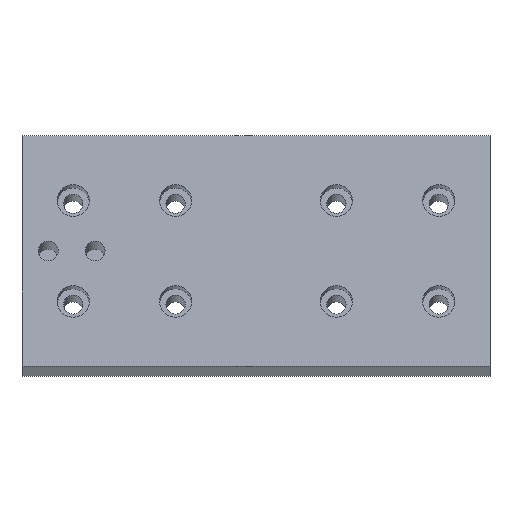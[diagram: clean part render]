
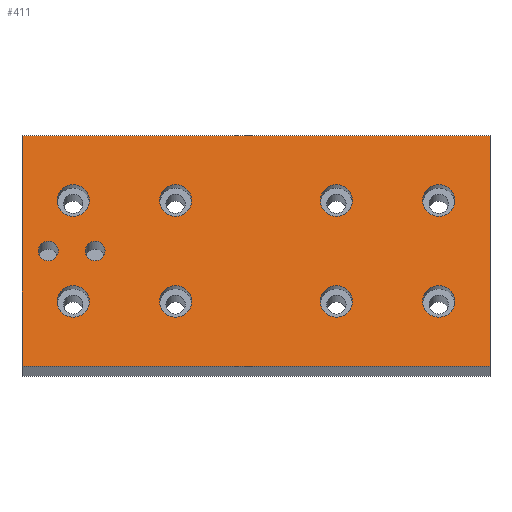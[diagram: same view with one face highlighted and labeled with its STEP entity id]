
A CAD part, front view. The second image highlights one B-rep face of the part: STEP entity #411.
In plain terms, the highlighted planar face has unit normal (0, -0.985, 0.174).
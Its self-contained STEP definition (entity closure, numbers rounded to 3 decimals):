
#37=CARTESIAN_POINT('',(-278.5,184.155,1572.201));
#38=VERTEX_POINT('',#37);
#45=CARTESIAN_POINT('',(-438.5,184.155,1572.201));
#46=VERTEX_POINT('',#45);
#47=CARTESIAN_POINT('',(-438.5,184.155,1572.201));
#48=DIRECTION('',(1.0,0.0,0.0));
#49=VECTOR('',#48,1.);
#50=LINE('',#47,#49);
#51=EDGE_CURVE('',#46,#38,#50,.T.);
#75=CARTESIAN_POINT('',(-278.5,198.047,1650.985));
#76=VERTEX_POINT('',#75);
#83=CARTESIAN_POINT('',(-278.5,184.155,1572.201));
#84=DIRECTION('',(0.,0.174,0.985));
#85=VECTOR('',#84,1.);
#86=LINE('',#83,#85);
#87=EDGE_CURVE('',#38,#76,#86,.T.);
#128=CARTESIAN_POINT('',(-438.5,198.047,1650.985));
#129=VERTEX_POINT('',#128);
#136=CARTESIAN_POINT('',(-278.5,198.047,1650.985));
#137=DIRECTION('',(-1.0,0.,0.));
#138=VECTOR('',#137,1.);
#139=LINE('',#136,#138);
#140=EDGE_CURVE('',#76,#129,#139,.T.);
#180=CARTESIAN_POINT('',(-438.5,198.047,1650.985));
#181=DIRECTION('',(0.,-0.174,-0.985));
#182=VECTOR('',#181,1.);
#183=LINE('',#180,#182);
#184=EDGE_CURVE('',#129,#46,#183,.T.);
#290=CARTESIAN_POINT('',(-438.5,184.155,1572.201));
#291=DIRECTION('',(0.0,-0.985,0.174));
#292=DIRECTION('',(1.0,0.0,0.0));
#293=AXIS2_PLACEMENT_3D('',#290,#291,#292);
#294=PLANE('',#293);
#295=ORIENTED_EDGE('',*,*,#51,.T.);
#296=ORIENTED_EDGE('',*,*,#87,.T.);
#297=ORIENTED_EDGE('',*,*,#140,.T.);
#298=ORIENTED_EDGE('',*,*,#184,.T.);
#299=EDGE_LOOP('',(#295,#296,#297,#298));
#300=FACE_OUTER_BOUND('',#299,.T.);
#301=CARTESIAN_POINT('',(-415.5,188.062,1594.359));
#302=VERTEX_POINT('',#301);
#303=CARTESIAN_POINT('',(-421.,188.062,1594.359));
#304=DIRECTION('',(0.0,-0.985,0.174));
#305=DIRECTION('',(1.0,0.0,0.0));
#306=AXIS2_PLACEMENT_3D('',#303,#304,#305);
#307=CIRCLE('',#306,5.5);
#308=EDGE_CURVE('',#302,#302,#307,.T.);
#309=ORIENTED_EDGE('',*,*,#308,.F.);
#310=EDGE_LOOP('',(#309));
#311=FACE_BOUND('',#310,.T.);
#312=CARTESIAN_POINT('',(-415.5,194.14,1628.827));
#313=VERTEX_POINT('',#312);
#314=CARTESIAN_POINT('',(-421.,194.14,1628.827));
#315=DIRECTION('',(0.0,-0.985,0.174));
#316=DIRECTION('',(1.0,0.0,0.0));
#317=AXIS2_PLACEMENT_3D('',#314,#315,#316);
#318=CIRCLE('',#317,5.5);
#319=EDGE_CURVE('',#313,#313,#318,.T.);
#320=ORIENTED_EDGE('',*,*,#319,.F.);
#321=EDGE_LOOP('',(#320));
#322=FACE_BOUND('',#321,.T.);
#323=CARTESIAN_POINT('',(-380.5,188.062,1594.359));
#324=VERTEX_POINT('',#323);
#325=CARTESIAN_POINT('',(-386.,188.062,1594.359));
#326=DIRECTION('',(0.0,-0.985,0.174));
#327=DIRECTION('',(1.0,0.0,0.0));
#328=AXIS2_PLACEMENT_3D('',#325,#326,#327);
#329=CIRCLE('',#328,5.5);
#330=EDGE_CURVE('',#324,#324,#329,.T.);
#331=ORIENTED_EDGE('',*,*,#330,.F.);
#332=EDGE_LOOP('',(#331));
#333=FACE_BOUND('',#332,.T.);
#334=CARTESIAN_POINT('',(-380.5,194.14,1628.827));
#335=VERTEX_POINT('',#334);
#336=CARTESIAN_POINT('',(-386.,194.14,1628.827));
#337=DIRECTION('',(0.0,-0.985,0.174));
#338=DIRECTION('',(1.0,0.0,0.0));
#339=AXIS2_PLACEMENT_3D('',#336,#337,#338);
#340=CIRCLE('',#339,5.5);
#341=EDGE_CURVE('',#335,#335,#340,.T.);
#342=ORIENTED_EDGE('',*,*,#341,.F.);
#343=EDGE_LOOP('',(#342));
#344=FACE_BOUND('',#343,.T.);
#345=CARTESIAN_POINT('',(-325.5,188.062,1594.359));
#346=VERTEX_POINT('',#345);
#347=CARTESIAN_POINT('',(-331.,188.062,1594.359));
#348=DIRECTION('',(0.0,-0.985,0.174));
#349=DIRECTION('',(1.0,0.0,0.0));
#350=AXIS2_PLACEMENT_3D('',#347,#348,#349);
#351=CIRCLE('',#350,5.5);
#352=EDGE_CURVE('',#346,#346,#351,.T.);
#353=ORIENTED_EDGE('',*,*,#352,.F.);
#354=EDGE_LOOP('',(#353));
#355=FACE_BOUND('',#354,.T.);
#356=CARTESIAN_POINT('',(-325.5,194.14,1628.827));
#357=VERTEX_POINT('',#356);
#358=CARTESIAN_POINT('',(-331.,194.14,1628.827));
#359=DIRECTION('',(0.0,-0.985,0.174));
#360=DIRECTION('',(1.0,0.0,0.0));
#361=AXIS2_PLACEMENT_3D('',#358,#359,#360);
#362=CIRCLE('',#361,5.5);
#363=EDGE_CURVE('',#357,#357,#362,.T.);
#364=ORIENTED_EDGE('',*,*,#363,.F.);
#365=EDGE_LOOP('',(#364));
#366=FACE_BOUND('',#365,.T.);
#367=CARTESIAN_POINT('',(-290.5,188.062,1594.359));
#368=VERTEX_POINT('',#367);
#369=CARTESIAN_POINT('',(-296.,188.062,1594.359));
#370=DIRECTION('',(0.0,-0.985,0.174));
#371=DIRECTION('',(1.0,0.0,0.0));
#372=AXIS2_PLACEMENT_3D('',#369,#370,#371);
#373=CIRCLE('',#372,5.5);
#374=EDGE_CURVE('',#368,#368,#373,.T.);
#375=ORIENTED_EDGE('',*,*,#374,.F.);
#376=EDGE_LOOP('',(#375));
#377=FACE_BOUND('',#376,.T.);
#378=CARTESIAN_POINT('',(-290.5,194.14,1628.827));
#379=VERTEX_POINT('',#378);
#380=CARTESIAN_POINT('',(-296.,194.14,1628.827));
#381=DIRECTION('',(0.0,-0.985,0.174));
#382=DIRECTION('',(1.0,0.0,0.0));
#383=AXIS2_PLACEMENT_3D('',#380,#381,#382);
#384=CIRCLE('',#383,5.5);
#385=EDGE_CURVE('',#379,#379,#384,.T.);
#386=ORIENTED_EDGE('',*,*,#385,.F.);
#387=EDGE_LOOP('',(#386));
#388=FACE_BOUND('',#387,.T.);
#389=CARTESIAN_POINT('',(-426.1,191.101,1611.593));
#390=VERTEX_POINT('',#389);
#391=CARTESIAN_POINT('',(-429.5,191.101,1611.593));
#392=DIRECTION('',(0.0,-0.985,0.174));
#393=DIRECTION('',(1.0,0.0,0.0));
#394=AXIS2_PLACEMENT_3D('',#391,#392,#393);
#395=CIRCLE('',#394,3.4);
#396=EDGE_CURVE('',#390,#390,#395,.T.);
#397=ORIENTED_EDGE('',*,*,#396,.F.);
#398=EDGE_LOOP('',(#397));
#399=FACE_BOUND('',#398,.T.);
#400=CARTESIAN_POINT('',(-410.1,191.101,1611.593));
#401=VERTEX_POINT('',#400);
#402=CARTESIAN_POINT('',(-413.5,191.101,1611.593));
#403=DIRECTION('',(0.0,-0.985,0.174));
#404=DIRECTION('',(1.0,0.0,0.0));
#405=AXIS2_PLACEMENT_3D('',#402,#403,#404);
#406=CIRCLE('',#405,3.4);
#407=EDGE_CURVE('',#401,#401,#406,.T.);
#408=ORIENTED_EDGE('',*,*,#407,.F.);
#409=EDGE_LOOP('',(#408));
#410=FACE_BOUND('',#409,.T.);
#411=ADVANCED_FACE('',(#300,#311,#322,#333,#344,#355,#366,#377,#388,#399,#410),#294,.T.);
